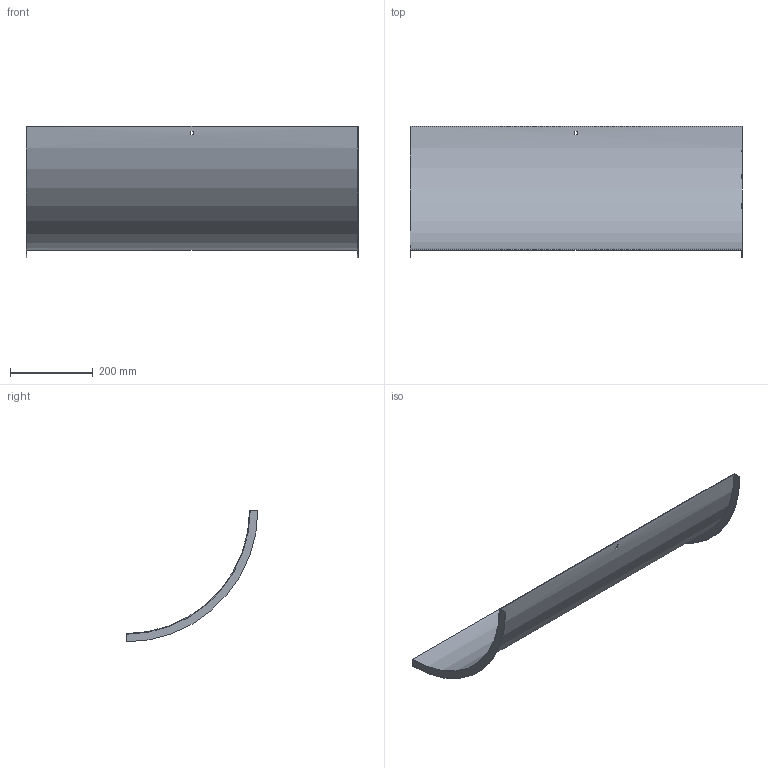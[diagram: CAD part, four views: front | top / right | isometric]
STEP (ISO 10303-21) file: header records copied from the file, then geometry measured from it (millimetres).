
FILE_DESCRIPTION (( 'STEP AP214' ), '1' );
FILE_NAME ('B2X30N3R800X.step', '2025-03-20T09:47:16', ( '' ), ( '' ), 'SwSTEP 2.0', 'SolidWorks 2023', '' );
FILE_SCHEMA (( 'AUTOMOTIVE_DESIGN' ));
Length unit declared in the file: millimetre
Products named in the file (1): B2X30N3R800X
Bounding box: 803 x 318.5 x 318.5 mm (x, y, z)
Volume: 592972.6 mm3; surface area: 794740.7 mm2
Topology: 1 solids, 1 shells, 18 faces, 48 edges, 32 vertices
Faces by surface type: plane 14, cylinder 4
Entity records: 599 total; most frequent: DIRECTION 102, CARTESIAN_POINT 99, ORIENTED_EDGE 96, EDGE_CURVE 48, AXIS2_PLACEMENT_3D 35, VECTOR 32, VERTEX_POINT 32, LINE 32
